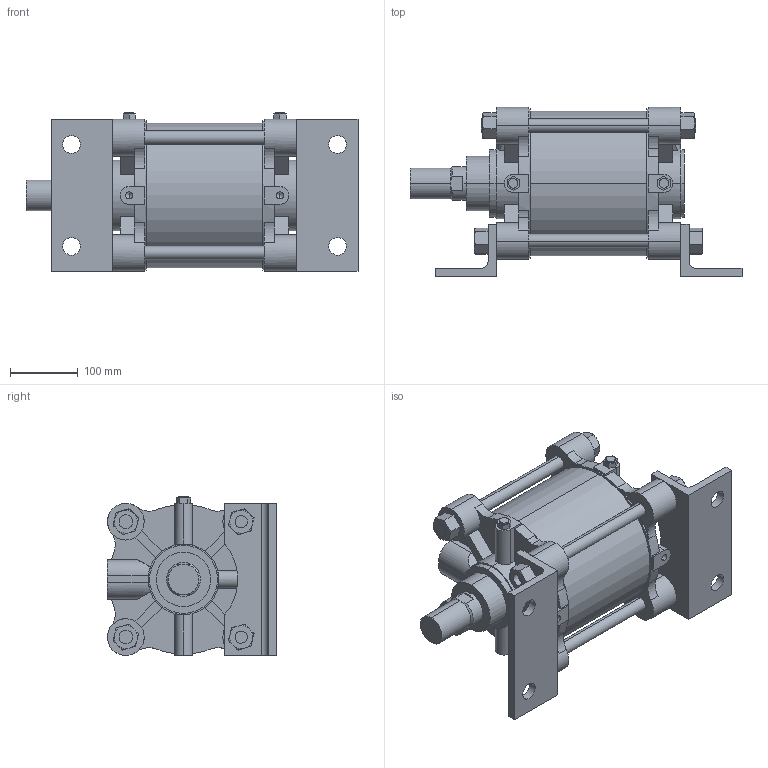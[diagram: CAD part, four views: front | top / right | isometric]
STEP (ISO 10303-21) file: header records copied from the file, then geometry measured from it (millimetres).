
FILE_DESCRIPTION (( 'STEP AP203' ), '1' );
FILE_NAME ('A##2-200#-100-L.STEP', '2016-03-31T07:01:09', ( '' ), ( '' ), 'SwSTEP 2.0', 'SolidWorks 2014', '' );
FILE_SCHEMA (( 'CONFIG_CONTROL_DESIGN' ));
Length unit declared in the file: millimetre
Products named in the file (7): A200-100; A200-A; A200-B; A200-L; A##2-200#-100-L
Assembly tree (17 placements, depth 2):
  A##2-200#-100-L
    A200-B
    A200-100
    A200-A
    (unnamed)  x8
    (unnamed)  x4
    A200-L  x2
Bounding box: 489 x 249 x 234 mm (x, y, z)
Volume: 10751866.7 mm3; surface area: 830014.9 mm2
Topology: 17 solids, 19 shells, 422 faces, 1068 edges, 684 vertices
Faces by surface type: plane 216, cylinder 144, torus 48, cone 14
Entity records: 10336 total; most frequent: CARTESIAN_POINT 2068, DIRECTION 1611, ORIENTED_EDGE 1470, EDGE_CURVE 735, AXIS2_PLACEMENT_3D 611, VERTEX_POINT 484, LINE 389, VECTOR 389
